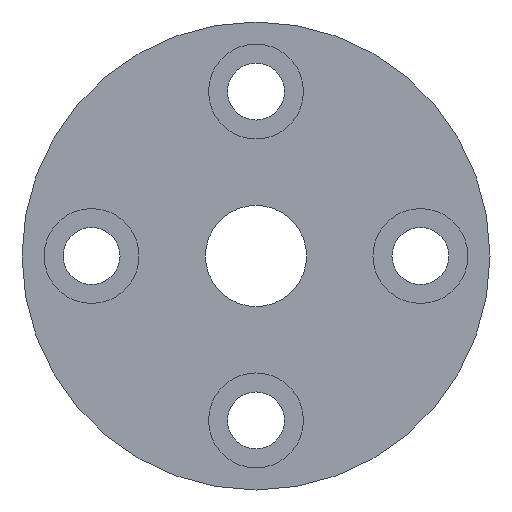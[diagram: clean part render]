
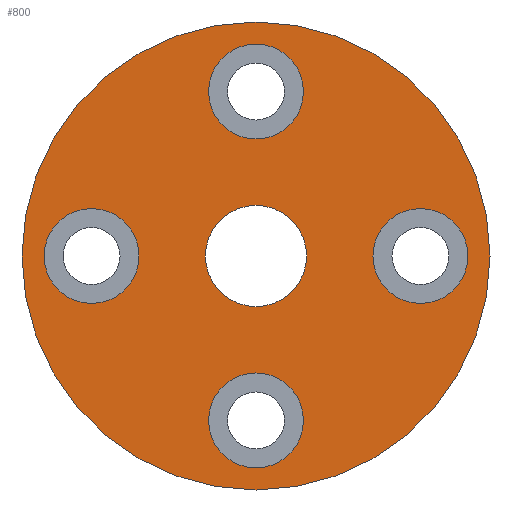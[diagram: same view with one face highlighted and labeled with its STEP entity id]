
A CAD part, front view. The second image highlights one B-rep face of the part: STEP entity #800.
In plain terms, the highlighted planar face has unit normal (0, -1, 0).
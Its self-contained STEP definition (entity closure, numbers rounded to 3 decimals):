
#161 = CYLINDRICAL_SURFACE('',#162,3.75);
#162 = AXIS2_PLACEMENT_3D('',#163,#164,#165);
#163 = CARTESIAN_POINT('',(13.,0.,0.));
#164 = DIRECTION('',(0.,1.,0.));
#165 = DIRECTION('',(-1.,0.,0.));
#182 = VERTEX_POINT('',#183);
#183 = CARTESIAN_POINT('',(9.25,0.,0.)
  );
#203 = EDGE_CURVE('',#182,#182,#204,.T.);
#204 = SURFACE_CURVE('',#205,(#210,#217),.PCURVE_S1.);
#205 = CIRCLE('',#206,3.75);
#206 = AXIS2_PLACEMENT_3D('',#207,#208,#209);
#207 = CARTESIAN_POINT('',(13.,0.,0.));
#208 = DIRECTION('',(0.,1.,0.));
#209 = DIRECTION('',(-1.,0.,0.));
#210 = PCURVE('',#161,#211);
#211 = DEFINITIONAL_REPRESENTATION('',(#212),#216);
#212 = LINE('',#213,#214);
#213 = CARTESIAN_POINT('',(0.,0.));
#214 = VECTOR('',#215,1.);
#215 = DIRECTION('',(1.,0.));
#216 = ( GEOMETRIC_REPRESENTATION_CONTEXT(2) 
PARAMETRIC_REPRESENTATION_CONTEXT() REPRESENTATION_CONTEXT('2D SPACE',''
  ) );
#217 = PCURVE('',#218,#223);
#218 = PLANE('',#219);
#219 = AXIS2_PLACEMENT_3D('',#220,#221,#222);
#220 = CARTESIAN_POINT('',(0.,0.,0.));
#221 = DIRECTION('',(0.,-1.,0.));
#222 = DIRECTION('',(0.,0.,-1.));
#223 = DEFINITIONAL_REPRESENTATION('',(#224),#232);
#224 = ( BOUNDED_CURVE() B_SPLINE_CURVE(2,(#225,#226,#227,#228,#229,#230
,#231),.UNSPECIFIED.,.T.,.F.) B_SPLINE_CURVE_WITH_KNOTS((1,2,2,2,2,1),(
    -2.094,0.,2.094,4.189,6.283,
8.378),.UNSPECIFIED.) CURVE() GEOMETRIC_REPRESENTATION_ITEM() 
RATIONAL_B_SPLINE_CURVE((1.,0.5,1.,0.5,1.,0.5,1.)) REPRESENTATION_ITEM(
  '') );
#225 = CARTESIAN_POINT('',(0.,9.25));
#226 = CARTESIAN_POINT('',(-6.495,9.25));
#227 = CARTESIAN_POINT('',(-3.248,14.875));
#228 = CARTESIAN_POINT('',(0.,20.5));
#229 = CARTESIAN_POINT('',(3.248,14.875));
#230 = CARTESIAN_POINT('',(6.495,9.25));
#231 = CARTESIAN_POINT('',(0.,9.25));
#232 = ( GEOMETRIC_REPRESENTATION_CONTEXT(2) 
PARAMETRIC_REPRESENTATION_CONTEXT() REPRESENTATION_CONTEXT('2D SPACE',''
  ) );
#373 = CYLINDRICAL_SURFACE('',#374,3.75);
#374 = AXIS2_PLACEMENT_3D('',#375,#376,#377);
#375 = CARTESIAN_POINT('',(0.,0.,-13.)
  );
#376 = DIRECTION('',(0.,1.,0.));
#377 = DIRECTION('',(0.,-0.,1.));
#394 = VERTEX_POINT('',#395);
#395 = CARTESIAN_POINT('',(0.,0.,-9.25)
  );
#415 = EDGE_CURVE('',#394,#394,#416,.T.);
#416 = SURFACE_CURVE('',#417,(#422,#429),.PCURVE_S1.);
#417 = CIRCLE('',#418,3.75);
#418 = AXIS2_PLACEMENT_3D('',#419,#420,#421);
#419 = CARTESIAN_POINT('',(0.,0.,-13.)
  );
#420 = DIRECTION('',(0.,1.,0.));
#421 = DIRECTION('',(0.,-0.,1.));
#422 = PCURVE('',#373,#423);
#423 = DEFINITIONAL_REPRESENTATION('',(#424),#428);
#424 = LINE('',#425,#426);
#425 = CARTESIAN_POINT('',(0.,0.));
#426 = VECTOR('',#427,1.);
#427 = DIRECTION('',(1.,0.));
#428 = ( GEOMETRIC_REPRESENTATION_CONTEXT(2) 
PARAMETRIC_REPRESENTATION_CONTEXT() REPRESENTATION_CONTEXT('2D SPACE',''
  ) );
#429 = PCURVE('',#218,#430);
#430 = DEFINITIONAL_REPRESENTATION('',(#431),#439);
#431 = ( BOUNDED_CURVE() B_SPLINE_CURVE(2,(#432,#433,#434,#435,#436,#437
,#438),.UNSPECIFIED.,.T.,.F.) B_SPLINE_CURVE_WITH_KNOTS((1,2,2,2,2,1),(
    -2.094,0.,2.094,4.189,6.283,
8.378),.UNSPECIFIED.) CURVE() GEOMETRIC_REPRESENTATION_ITEM() 
RATIONAL_B_SPLINE_CURVE((1.,0.5,1.,0.5,1.,0.5,1.)) REPRESENTATION_ITEM(
  '') );
#432 = CARTESIAN_POINT('',(9.25,0.));
#433 = CARTESIAN_POINT('',(9.25,6.495));
#434 = CARTESIAN_POINT('',(14.875,3.248));
#435 = CARTESIAN_POINT('',(20.5,0.));
#436 = CARTESIAN_POINT('',(14.875,-3.248));
#437 = CARTESIAN_POINT('',(9.25,-6.495));
#438 = CARTESIAN_POINT('',(9.25,0.));
#439 = ( GEOMETRIC_REPRESENTATION_CONTEXT(2) 
PARAMETRIC_REPRESENTATION_CONTEXT() REPRESENTATION_CONTEXT('2D SPACE',''
  ) );
#580 = CYLINDRICAL_SURFACE('',#581,3.75);
#581 = AXIS2_PLACEMENT_3D('',#582,#583,#584);
#582 = CARTESIAN_POINT('',(-13.,0.,0.));
#583 = DIRECTION('',(0.,1.,0.));
#584 = DIRECTION('',(1.,0.,0.));
#601 = VERTEX_POINT('',#602);
#602 = CARTESIAN_POINT('',(-9.25,0.,0.)
  );
#622 = EDGE_CURVE('',#601,#601,#623,.T.);
#623 = SURFACE_CURVE('',#624,(#629,#636),.PCURVE_S1.);
#624 = CIRCLE('',#625,3.75);
#625 = AXIS2_PLACEMENT_3D('',#626,#627,#628);
#626 = CARTESIAN_POINT('',(-13.,0.,0.));
#627 = DIRECTION('',(0.,1.,0.));
#628 = DIRECTION('',(1.,0.,0.));
#629 = PCURVE('',#580,#630);
#630 = DEFINITIONAL_REPRESENTATION('',(#631),#635);
#631 = LINE('',#632,#633);
#632 = CARTESIAN_POINT('',(0.,0.));
#633 = VECTOR('',#634,1.);
#634 = DIRECTION('',(1.,0.));
#635 = ( GEOMETRIC_REPRESENTATION_CONTEXT(2) 
PARAMETRIC_REPRESENTATION_CONTEXT() REPRESENTATION_CONTEXT('2D SPACE',''
  ) );
#636 = PCURVE('',#218,#637);
#637 = DEFINITIONAL_REPRESENTATION('',(#638),#646);
#638 = ( BOUNDED_CURVE() B_SPLINE_CURVE(2,(#639,#640,#641,#642,#643,#644
,#645),.UNSPECIFIED.,.T.,.F.) B_SPLINE_CURVE_WITH_KNOTS((1,2,2,2,2,1),(
    -2.094,0.,2.094,4.189,6.283,
8.378),.UNSPECIFIED.) CURVE() GEOMETRIC_REPRESENTATION_ITEM() 
RATIONAL_B_SPLINE_CURVE((1.,0.5,1.,0.5,1.,0.5,1.)) REPRESENTATION_ITEM(
  '') );
#639 = CARTESIAN_POINT('',(0.,-9.25));
#640 = CARTESIAN_POINT('',(6.495,-9.25));
#641 = CARTESIAN_POINT('',(3.248,-14.875));
#642 = CARTESIAN_POINT('',(0.,-20.5));
#643 = CARTESIAN_POINT('',(-3.248,-14.875));
#644 = CARTESIAN_POINT('',(-6.495,-9.25));
#645 = CARTESIAN_POINT('',(0.,-9.25));
#646 = ( GEOMETRIC_REPRESENTATION_CONTEXT(2) 
PARAMETRIC_REPRESENTATION_CONTEXT() REPRESENTATION_CONTEXT('2D SPACE',''
  ) );
#662 = CYLINDRICAL_SURFACE('',#663,18.5);
#663 = AXIS2_PLACEMENT_3D('',#664,#665,#666);
#664 = CARTESIAN_POINT('',(0.,29.311,0.));
#665 = DIRECTION('',(0.,-1.,0.));
#666 = DIRECTION('',(0.,0.,-1.));
#682 = VERTEX_POINT('',#683);
#683 = CARTESIAN_POINT('',(0.,0.,-18.5));
#703 = EDGE_CURVE('',#682,#682,#704,.T.);
#704 = SURFACE_CURVE('',#705,(#710,#717),.PCURVE_S1.);
#705 = CIRCLE('',#706,18.5);
#706 = AXIS2_PLACEMENT_3D('',#707,#708,#709);
#707 = CARTESIAN_POINT('',(0.,0.,0.));
#708 = DIRECTION('',(0.,-1.,0.));
#709 = DIRECTION('',(0.,0.,-1.));
#710 = PCURVE('',#662,#711);
#711 = DEFINITIONAL_REPRESENTATION('',(#712),#716);
#712 = LINE('',#713,#714);
#713 = CARTESIAN_POINT('',(0.,29.311));
#714 = VECTOR('',#715,1.);
#715 = DIRECTION('',(1.,0.));
#716 = ( GEOMETRIC_REPRESENTATION_CONTEXT(2) 
PARAMETRIC_REPRESENTATION_CONTEXT() REPRESENTATION_CONTEXT('2D SPACE',''
  ) );
#717 = PCURVE('',#218,#718);
#718 = DEFINITIONAL_REPRESENTATION('',(#719),#723);
#719 = CIRCLE('',#720,18.5);
#720 = AXIS2_PLACEMENT_2D('',#721,#722);
#721 = CARTESIAN_POINT('',(0.,0.));
#722 = DIRECTION('',(1.,0.));
#723 = ( GEOMETRIC_REPRESENTATION_CONTEXT(2) 
PARAMETRIC_REPRESENTATION_CONTEXT() REPRESENTATION_CONTEXT('2D SPACE',''
  ) );
#800 = ADVANCED_FACE('',(#801,#804,#807,#810,#845,#876),#218,.T.);
#801 = FACE_BOUND('',#802,.T.);
#802 = EDGE_LOOP('',(#803));
#803 = ORIENTED_EDGE('',*,*,#203,.T.);
#804 = FACE_BOUND('',#805,.T.);
#805 = EDGE_LOOP('',(#806));
#806 = ORIENTED_EDGE('',*,*,#415,.T.);
#807 = FACE_BOUND('',#808,.T.);
#808 = EDGE_LOOP('',(#809));
#809 = ORIENTED_EDGE('',*,*,#622,.T.);
#810 = FACE_BOUND('',#811,.T.);
#811 = EDGE_LOOP('',(#812));
#812 = ORIENTED_EDGE('',*,*,#813,.T.);
#813 = EDGE_CURVE('',#814,#814,#816,.T.);
#814 = VERTEX_POINT('',#815);
#815 = CARTESIAN_POINT('',(0.,0.,9.25));
#816 = SURFACE_CURVE('',#817,(#822,#833),.PCURVE_S1.);
#817 = CIRCLE('',#818,3.75);
#818 = AXIS2_PLACEMENT_3D('',#819,#820,#821);
#819 = CARTESIAN_POINT('',(0.,0.,13.));
#820 = DIRECTION('',(0.,1.,0.));
#821 = DIRECTION('',(0.,0.,-1.));
#822 = PCURVE('',#218,#823);
#823 = DEFINITIONAL_REPRESENTATION('',(#824),#832);
#824 = ( BOUNDED_CURVE() B_SPLINE_CURVE(2,(#825,#826,#827,#828,#829,#830
,#831),.UNSPECIFIED.,.T.,.F.) B_SPLINE_CURVE_WITH_KNOTS((1,2,2,2,2,1),(
    -2.094,0.,2.094,4.189,6.283,
8.378),.UNSPECIFIED.) CURVE() GEOMETRIC_REPRESENTATION_ITEM() 
RATIONAL_B_SPLINE_CURVE((1.,0.5,1.,0.5,1.,0.5,1.)) REPRESENTATION_ITEM(
  '') );
#825 = CARTESIAN_POINT('',(-9.25,0.));
#826 = CARTESIAN_POINT('',(-9.25,-6.495));
#827 = CARTESIAN_POINT('',(-14.875,-3.248));
#828 = CARTESIAN_POINT('',(-20.5,0.));
#829 = CARTESIAN_POINT('',(-14.875,3.248));
#830 = CARTESIAN_POINT('',(-9.25,6.495));
#831 = CARTESIAN_POINT('',(-9.25,0.));
#832 = ( GEOMETRIC_REPRESENTATION_CONTEXT(2) 
PARAMETRIC_REPRESENTATION_CONTEXT() REPRESENTATION_CONTEXT('2D SPACE',''
  ) );
#833 = PCURVE('',#834,#839);
#834 = CYLINDRICAL_SURFACE('',#835,3.75);
#835 = AXIS2_PLACEMENT_3D('',#836,#837,#838);
#836 = CARTESIAN_POINT('',(0.,0.,13.));
#837 = DIRECTION('',(0.,1.,0.));
#838 = DIRECTION('',(0.,0.,-1.));
#839 = DEFINITIONAL_REPRESENTATION('',(#840),#844);
#840 = LINE('',#841,#842);
#841 = CARTESIAN_POINT('',(0.,0.));
#842 = VECTOR('',#843,1.);
#843 = DIRECTION('',(1.,0.));
#844 = ( GEOMETRIC_REPRESENTATION_CONTEXT(2) 
PARAMETRIC_REPRESENTATION_CONTEXT() REPRESENTATION_CONTEXT('2D SPACE',''
  ) );
#845 = FACE_BOUND('',#846,.T.);
#846 = EDGE_LOOP('',(#847));
#847 = ORIENTED_EDGE('',*,*,#848,.F.);
#848 = EDGE_CURVE('',#849,#849,#851,.T.);
#849 = VERTEX_POINT('',#850);
#850 = CARTESIAN_POINT('',(0.,0.,-4.));
#851 = SURFACE_CURVE('',#852,(#857,#864),.PCURVE_S1.);
#852 = CIRCLE('',#853,4.);
#853 = AXIS2_PLACEMENT_3D('',#854,#855,#856);
#854 = CARTESIAN_POINT('',(0.,0.,0.));
#855 = DIRECTION('',(0.,-1.,0.));
#856 = DIRECTION('',(0.,0.,-1.));
#857 = PCURVE('',#218,#858);
#858 = DEFINITIONAL_REPRESENTATION('',(#859),#863);
#859 = CIRCLE('',#860,4.);
#860 = AXIS2_PLACEMENT_2D('',#861,#862);
#861 = CARTESIAN_POINT('',(0.,0.));
#862 = DIRECTION('',(1.,0.));
#863 = ( GEOMETRIC_REPRESENTATION_CONTEXT(2) 
PARAMETRIC_REPRESENTATION_CONTEXT() REPRESENTATION_CONTEXT('2D SPACE',''
  ) );
#864 = PCURVE('',#865,#870);
#865 = CYLINDRICAL_SURFACE('',#866,4.);
#866 = AXIS2_PLACEMENT_3D('',#867,#868,#869);
#867 = CARTESIAN_POINT('',(0.,98.316,0.));
#868 = DIRECTION('',(0.,-1.,0.));
#869 = DIRECTION('',(0.,0.,-1.));
#870 = DEFINITIONAL_REPRESENTATION('',(#871),#875);
#871 = LINE('',#872,#873);
#872 = CARTESIAN_POINT('',(0.,98.316));
#873 = VECTOR('',#874,1.);
#874 = DIRECTION('',(1.,0.));
#875 = ( GEOMETRIC_REPRESENTATION_CONTEXT(2) 
PARAMETRIC_REPRESENTATION_CONTEXT() REPRESENTATION_CONTEXT('2D SPACE',''
  ) );
#876 = FACE_BOUND('',#877,.T.);
#877 = EDGE_LOOP('',(#878));
#878 = ORIENTED_EDGE('',*,*,#703,.T.);
